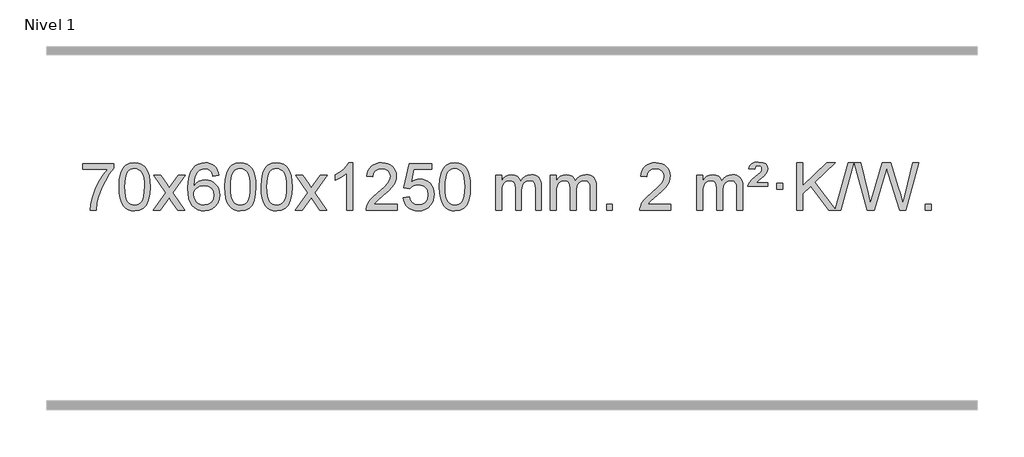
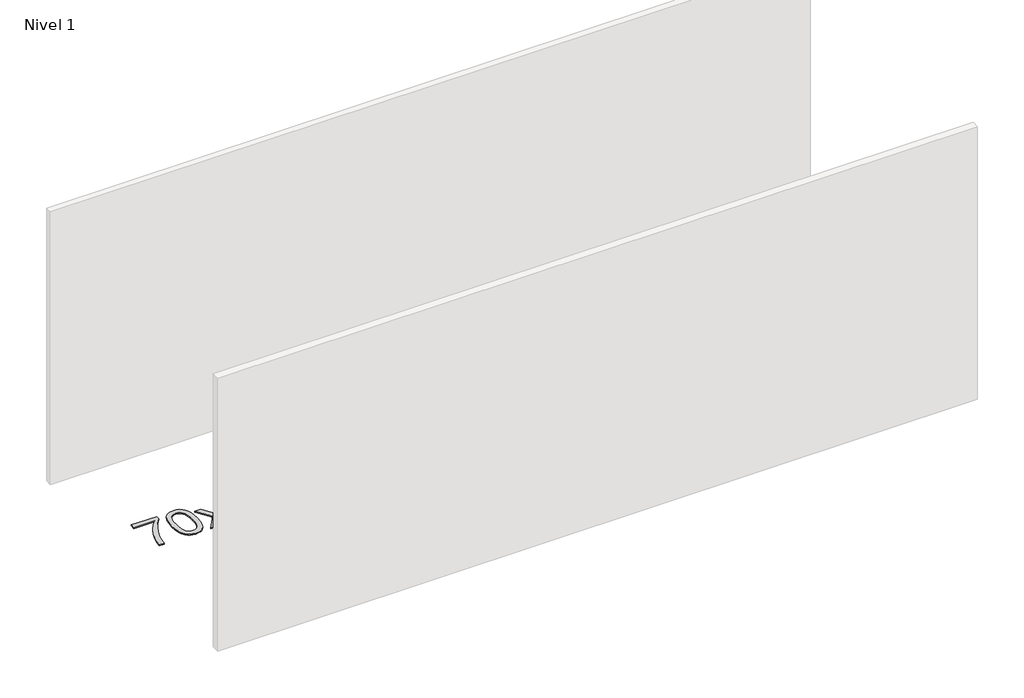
# One storey, part 5 of 8: 1 proxy.
"""IFC4 building model written with IfcOpenShell, lengths in millimetres."""

from ifc_helpers import new_model, si_unit, origin, origin_with_axes, place, context, project, spatial, polyline, outline, extrude, element, save

model = new_model("IFC4")

# Units and contexts
model_context = context("Model", 3, world=origin())
ifc_project = project(units=[si_unit("LENGTHUNIT", "METRE", prefix="MILLI")], contexts=[model_context])

# Site, building, storey
site = spatial("IfcSite", under=ifc_project)
building = spatial("IfcBuilding", under=site)
storey = spatial("IfcBuildingStorey", under=building, Name="Nivel 1", Elevation=0.0)

# Proxy
placement = place(None, origin())
element("IfcBuildingElementProxy", 1, Name="Texto de modelo 1", ObjectType="Texto de modelo 1", at=placement, inside=storey, context=model_context, shape_type="SweptSolid", body=[
    extrude(outline(polyline([(-6223.8644932, -6050.2608869), (-6223.8644932, -6000.0327318), (-5960.1666791, -6000.0327318), (-5960.1666791, -6040.646904), (-5997.7519563, -6088.214046), (-6034.9693515, -6148.7061088), (-6067.7966882, -6216.6048623), (-6092.2117899, -6286.3920768), (-6104.1802175, -6338.6067947), (-6110.8511443, -6395.579453), (-6161.0792994, -6395.579453), (-6155.6469086, -6343.8061935), (-6141.1155698, -6282.2717985), (-6117.8776904, -6217.0463207), (-6086.325678, -6154.1998132), (-6049.4884275, -6097.3865704), (-6010.3948342, -6050.2608869), (-6223.8644932, -6050.2608869)])), origin_with_axes(), (0.0, 0.0, 1.0), 10.0),
    extrude(outline(polyline([(-5916.2170434, -6197.9041943), (-5912.5259607, -6133.5861588), (-5901.4527127, -6082.2911459), (-5883.1076638, -6043.2343407), (-5871.2496009, -6028.0009605), (-5857.6011788, -6015.6309284), (-5842.1164125, -6006.0598651), (-5824.7493167, -5999.2233914), (-5784.3681363, -5993.7542124), (-5753.4169978, -5996.991574), (-5725.7032208, -6006.7036586), (-5702.5266551, -6022.5103217), (-5685.1871504, -6044.0314184), (-5672.0905514, -6071.0830078), (-5661.6427027, -6103.4811488), (-5654.8000976, -6144.6226186), (-5652.5192293, -6197.9041943), (-5656.1735238, -6261.8543477), (-5667.1364072, -6313.0267333), (-5685.3710914, -6352.1203266), (-5697.2015633, -6367.3996922), (-5710.8407882, -6379.8341036), (-5726.3439486, -6389.4695462), (-5743.7662268, -6396.3520052), (-5784.3681363, -6401.8579724), (-5812.0328624, -6399.4667394), (-5836.5583287, -6392.2930405), (-5857.9445354, -6380.3368757), (-5876.1914823, -6363.5982449), (-5893.7026653, -6333.3399508), (-5906.2106531, -6295.6381776), (-5913.7154458, -6250.4929255), (-5916.2170434, -6197.9041943)]), holes=[polyline([(-5865.9888883, -6197.8060924), (-5864.5173604, -6241.4706195), (-5860.1027764, -6276.8148822), (-5852.7451365, -6303.8388804), (-5842.4444406, -6322.5426142), (-5829.9855037, -6335.2682656), (-5816.1531407, -6344.3580165), (-5800.9473516, -6349.8118671), (-5784.3681363, -6351.6298173), (-5767.7889211, -6349.8057357), (-5752.583132, -6344.3334911), (-5738.7507689, -6335.2130833), (-5726.291832, -6322.4445124), (-5715.9911362, -6303.7101217), (-5708.6334963, -6276.6922549), (-5704.2189123, -6241.3909118), (-5702.7473843, -6197.8060924), (-5704.1698614, -6155.2973278), (-5708.4372925, -6120.5753989), (-5715.5496778, -6093.6403055), (-5725.5070171, -6074.4920476), (-5737.7574875, -6061.1440625), (-5751.7492661, -6051.6097875), (-5767.4823528, -6045.8892225), (-5784.9567475, -6043.9823675), (-5801.4501236, -6045.6623619), (-5816.3983954, -6050.7023452), (-5829.8015627, -6059.1023175), (-5841.6596257, -6070.8622786), (-5852.3036781, -6091.708925), (-5859.9065727, -6119.8151094), (-5864.4683094, -6155.1808319), (-5865.9888883, -6197.8060924)])]), origin_with_axes(), (0.0, 0.0, 1.0), 10.0),
    extrude(outline(polyline([(-5627.4051517, -6395.579453), (-5520.081711, -6247.2494325), (-5621.1266323, -6100.4890419), (-5560.6958833, -6100.4890419), (-5511.9392562, -6171.122385), (-5489.1796234, -6204.4770192), (-5469.4611485, -6177.2047007), (-5413.9354927, -6100.4890419), (-5353.5047436, -6100.4890419), (-5459.6509619, -6247.2494325), (-5357.4288182, -6395.579453), (-5417.8595673, -6395.579453), (-5479.3694369, -6306.4048574), (-5490.6511514, -6290.1199477), (-5566.9744027, -6395.579453), (-5627.4051517, -6395.579453)])), origin_with_axes(), (0.0, 0.0, 1.0), 10.0),
    extrude(outline(polyline([(-5068.6169265, -6100.4890419), (-5118.8450816, -6106.7675613), (-5126.9384855, -6081.874213), (-5137.8768435, -6064.8780648), (-5160.6610017, -6049.2062918), (-5188.2031004, -6043.9823675), (-5211.5513444, -6047.0235253), (-5233.5261622, -6056.1469988), (-5252.3985086, -6075.3627017), (-5267.8127642, -6101.8134171), (-5278.2238246, -6139.227016), (-5282.0865856, -6191.3313693), (-5261.938915, -6167.8237098), (-5237.7935934, -6151.2567573), (-5210.9995214, -6141.434308), (-5182.9055997, -6138.1601582), (-5158.7725408, -6140.398107), (-5136.5034174, -6147.1119534), (-5116.0982294, -6158.3016975), (-5097.5569768, -6173.9673391), (-5082.1488526, -6193.1769106), (-5071.1430496, -6214.9984443), (-5064.5395677, -6239.4319401), (-5062.3384071, -6266.4773982), (-5066.4832109, -6302.4439945), (-5078.9176224, -6335.786366), (-5098.6115719, -6364.0642287), (-5124.5349898, -6384.8372987), (-5155.5106538, -6397.602804), (-5190.3613415, -6401.8579724), (-5220.3038702, -6399.0375437), (-5247.3462625, -6390.5762579), (-5271.4885184, -6376.4741147), (-5292.730638, -6356.7311143), (-5310.0486829, -6330.5133908), (-5322.418715, -6296.9870783), (-5329.8407342, -6256.1521768), (-5332.3147407, -6208.0086864), (-5329.5678884, -6154.0342663), (-5321.3273317, -6107.9693092), (-5307.5930706, -6069.8138149), (-5288.365105, -6039.5677835), (-5267.5245899, -6019.5243462), (-5243.3608742, -6005.2076052), (-5215.8739578, -5996.6175606), (-5185.0638407, -5993.7542124), (-5161.9301946, -5995.5261773), (-5140.9915777, -6000.8420722), (-5122.2479901, -6009.7018969), (-5105.6994316, -6022.1056515), (-5091.7934922, -6037.6364031), (-5080.9777616, -6055.8772186), (-5073.2522397, -6076.8280983), (-5068.6169265, -6100.4890419)]), holes=[polyline([(-5282.0865856, -6265.6925832), (-5279.1803178, -6287.9494439), (-5270.4615145, -6309.2007605), (-5256.9234571, -6327.472233), (-5239.5594269, -6340.7895612), (-5218.602416, -6348.9197533), (-5194.2854161, -6351.6298173), (-5161.1392483, -6346.0134855), (-5147.2241118, -6338.9930708), (-5135.0809403, -6329.1644901), (-5125.2308999, -6316.9262824), (-5118.1951567, -6302.6769865), (-5112.5665622, -6268.1451299), (-5118.1215803, -6234.9989621), (-5125.065353, -6221.3781312), (-5134.7866347, -6209.725469), (-5146.9665944, -6200.3904634), (-5161.2864011, -6193.7226022), (-5196.3455552, -6188.3883133), (-5229.4426721, -6193.7226022), (-5257.1196608, -6209.725469), (-5268.0426904, -6221.2248471), (-5275.8448544, -6234.3858254), (-5280.5261528, -6249.2084042), (-5282.0865856, -6265.6925832)])]), origin_with_axes(), (0.0, 0.0, 1.0), 10.0),
    extrude(outline(polyline([(-5018.3887714, -6197.9041943), (-5014.6976888, -6133.5861588), (-5003.6244407, -6082.2911459), (-4985.2793919, -6043.2343407), (-4973.4213289, -6028.0009605), (-4959.7729069, -6015.6309284), (-4944.2881406, -6006.0598651), (-4926.9210447, -5999.2233914), (-4886.5398644, -5993.7542124), (-4855.5887258, -5996.991574), (-4827.8749489, -6006.7036586), (-4804.6983832, -6022.5103217), (-4787.3588785, -6044.0314184), (-4774.2622794, -6071.0830078), (-4763.8144308, -6103.4811488), (-4756.9718257, -6144.6226186), (-4754.6909573, -6197.9041943), (-4758.3452518, -6261.8543477), (-4769.3081352, -6313.0267333), (-4787.5428195, -6352.1203266), (-4799.3732913, -6367.3996922), (-4813.0125163, -6379.8341036), (-4828.5156767, -6389.4695462), (-4845.9379548, -6396.3520052), (-4886.5398644, -6401.8579724), (-4914.2045904, -6399.4667394), (-4938.7300568, -6392.2930405), (-4960.1162634, -6380.3368757), (-4978.3632104, -6363.5982449), (-4995.8743933, -6333.3399508), (-5008.3823812, -6295.6381776), (-5015.8871739, -6250.4929255), (-5018.3887714, -6197.9041943)]), holes=[polyline([(-4968.1606164, -6197.8060924), (-4966.6890884, -6241.4706195), (-4962.2745044, -6276.8148822), (-4954.9168645, -6303.8388804), (-4944.6161687, -6322.5426142), (-4932.1572318, -6335.2682656), (-4918.3248688, -6344.3580165), (-4903.1190796, -6349.8118671), (-4886.5398644, -6351.6298173), (-4869.9606491, -6349.8057357), (-4854.75486, -6344.3334911), (-4840.922497, -6335.2130833), (-4828.4635601, -6322.4445124), (-4818.1628642, -6303.7101217), (-4810.8052243, -6276.6922549), (-4806.3906404, -6241.3909118), (-4804.9191124, -6197.8060924), (-4806.3415894, -6155.2973278), (-4810.6090206, -6120.5753989), (-4817.7214058, -6093.6403055), (-4827.6787451, -6074.4920476), (-4839.9292156, -6061.1440625), (-4853.9209941, -6051.6097875), (-4869.6540808, -6045.8892225), (-4887.1284756, -6043.9823675), (-4903.6218517, -6045.6623619), (-4918.5701234, -6050.7023452), (-4931.9732908, -6059.1023175), (-4943.8313538, -6070.8622786), (-4954.4754062, -6091.708925), (-4962.0783007, -6119.8151094), (-4966.6400375, -6155.1808319), (-4968.1606164, -6197.8060924)])]), origin_with_axes(), (0.0, 0.0, 1.0), 10.0),
    extrude(outline(polyline([(-4710.7413216, -6197.9041943), (-4707.0502389, -6133.5861588), (-4695.9769909, -6082.2911459), (-4677.631942, -6043.2343407), (-4665.7738791, -6028.0009605), (-4652.125457, -6015.6309284), (-4636.6406907, -6006.0598651), (-4619.2735949, -5999.2233914), (-4578.8924145, -5993.7542124), (-4547.941276, -5996.991574), (-4520.227499, -6006.7036586), (-4497.0509333, -6022.5103217), (-4479.7114286, -6044.0314184), (-4466.6148296, -6071.0830078), (-4456.166981, -6103.4811488), (-4449.3243758, -6144.6226186), (-4447.0435075, -6197.9041943), (-4450.697802, -6261.8543477), (-4461.6606854, -6313.0267333), (-4479.8953696, -6352.1203266), (-4491.7258415, -6367.3996922), (-4505.3650664, -6379.8341036), (-4520.8682269, -6389.4695462), (-4538.290505, -6396.3520052), (-4578.8924145, -6401.8579724), (-4606.5571406, -6399.4667394), (-4631.0826069, -6392.2930405), (-4652.4688136, -6380.3368757), (-4670.7157605, -6363.5982449), (-4688.2269435, -6333.3399508), (-4700.7349313, -6295.6381776), (-4708.239724, -6250.4929255), (-4710.7413216, -6197.9041943)]), holes=[polyline([(-4660.5131665, -6197.8060924), (-4659.0416386, -6241.4706195), (-4654.6270546, -6276.8148822), (-4647.2694147, -6303.8388804), (-4636.9687188, -6322.5426142), (-4624.5097819, -6335.2682656), (-4610.6774189, -6344.3580165), (-4595.4716298, -6349.8118671), (-4578.8924145, -6351.6298173), (-4562.3131993, -6349.8057357), (-4547.1074102, -6344.3334911), (-4533.2750471, -6335.2130833), (-4520.8161102, -6322.4445124), (-4510.5154144, -6303.7101217), (-4503.1577745, -6276.6922549), (-4498.7431905, -6241.3909118), (-4497.2716625, -6197.8060924), (-4498.6941396, -6155.2973278), (-4502.9615707, -6120.5753989), (-4510.073956, -6093.6403055), (-4520.0312953, -6074.4920476), (-4532.2817658, -6061.1440625), (-4546.2735443, -6051.6097875), (-4562.006631, -6045.8892225), (-4579.4810257, -6043.9823675), (-4595.9744019, -6045.6623619), (-4610.9226736, -6050.7023452), (-4624.3258409, -6059.1023175), (-4636.1839039, -6070.8622786), (-4646.8279563, -6091.708925), (-4654.4308509, -6119.8151094), (-4658.9925876, -6155.1808319), (-4660.5131665, -6197.8060924)])]), origin_with_axes(), (0.0, 0.0, 1.0), 10.0),
    extrude(outline(polyline([(-4421.9294299, -6395.579453), (-4314.6059892, -6247.2494325), (-4415.6509105, -6100.4890419), (-4355.2201615, -6100.4890419), (-4306.4635344, -6171.122385), (-4283.7039016, -6204.4770192), (-4263.9854267, -6177.2047007), (-4208.4597709, -6100.4890419), (-4148.0290218, -6100.4890419), (-4254.1752401, -6247.2494325), (-4151.9530964, -6395.579453), (-4212.3838455, -6395.579453), (-4273.8937151, -6306.4048574), (-4285.1754296, -6290.1199477), (-4361.4986809, -6395.579453), (-4421.9294299, -6395.579453)])), origin_with_axes(), (0.0, 0.0, 1.0), 10.0),
    extrude(outline(polyline([(-3932.204918, -6395.579453), (-3982.433073, -6395.579453), (-3982.433073, -6082.4382987), (-4003.4023468, -6099.3976587), (-4030.0124777, -6116.3324932), (-4082.8893832, -6141.6918254), (-4082.8893832, -6094.2105225), (-4043.4401706, -6072.7507395), (-4009.2639332, -6047.219729), (-3982.3227084, -6020.0700378), (-3964.5785335, -5993.7542124), (-3932.204918, -5993.7542124), (-3932.204918, -6395.579453)])), origin_with_axes(), (0.0, 0.0, 1.0), 10.0),
    extrude(outline(polyline([(-3555.4937549, -6345.3512979), (-3555.4937549, -6395.579453), (-3819.191569, -6395.579453), (-3818.0879231, -6377.8965918), (-3813.7959664, -6360.9494945), (-3801.4106059, -6333.8856424), (-3783.2862863, -6307.6311307), (-3757.0685628, -6280.1503456), (-3720.4029906, -6249.4076736), (-3666.20171, -6201.2641831), (-3633.6809416, -6165.7267824), (-3617.4205574, -6136.884834), (-3612.0004294, -6108.8277005), (-3617.1139891, -6083.6768347), (-3632.4546683, -6062.7688747), (-3656.0359042, -6048.6789943), (-3685.871134, -6043.9823675), (-3717.2024172, -6048.5686297), (-3741.5439426, -6062.3274163), (-3757.2525038, -6084.1796068), (-3762.6848946, -6113.0460807), (-3812.9130497, -6106.7675613), (-3808.5935019, -6080.838012), (-3800.7361556, -6058.1826125), (-3789.3410108, -6038.8013627), (-3774.4080675, -6022.6942627), (-3756.2806822, -6010.0329907), (-3735.3022114, -6000.989225), (-3711.4726552, -5995.5629655), (-3684.7920135, -5993.7542124), (-3657.8722485, -5995.7653006), (-3633.9139335, -6001.7985654), (-3612.9170687, -6011.8540066), (-3594.8816538, -6025.9316242), (-3580.3963003, -6042.9890861), (-3570.0496192, -6061.9840598), (-3563.8416105, -6082.9165453), (-3561.7722743, -6105.7865427), (-3564.0040917, -6129.8092369), (-3570.699544, -6153.4149983), (-3582.5821325, -6177.4254299), (-3600.3753583, -6202.6621347), (-3628.7390601, -6232.7916701), (-3672.3330766, -6271.4805933), (-3730.1150753, -6319.795762), (-3752.7766062, -6345.3512979), (-3555.4937549, -6345.3512979)])), origin_with_axes(), (0.0, 0.0, 1.0), 10.0),
    extrude(outline(polyline([(-3505.2655998, -6288.8446235), (-3455.0374447, -6282.5661041), (-3445.8158694, -6312.7201649), (-3429.7271635, -6334.3148381), (-3406.8449034, -6347.3010725), (-3377.2426655, -6351.6298173), (-3358.1128017, -6350.1245668), (-3341.2392809, -6345.6088153), (-3326.622103, -6338.0825628), (-3314.2612679, -6327.5458094), (-3304.4326873, -6314.519721), (-3297.4122725, -6299.5254641), (-3291.7959408, -6263.6324441), (-3297.0566533, -6229.8363514), (-3303.6325439, -6215.9181493), (-3312.8387909, -6203.9865099), (-3324.7060509, -6194.4154467), (-3339.2649809, -6187.5789729), (-3376.4578506, -6182.1097939), (-3400.8239014, -6184.2925604), (-3420.5546391, -6190.8408599), (-3436.3122512, -6200.8717757), (-3448.7589254, -6213.5023908), (-3498.9870804, -6207.2238715), (-3455.0374447, -6000.0327318), (-3260.4033438, -6000.0327318), (-3260.4033438, -6050.2608869), (-3414.4232725, -6050.2608869), (-3435.907581, -6160.919791), (-3418.1818002, -6148.2155994), (-3400.0268237, -6139.1411769), (-3381.4426516, -6133.6965234), (-3362.4292838, -6131.8816388), (-3337.9681968, -6134.1318504), (-3315.499804, -6140.882485), (-3295.0241053, -6152.1335427), (-3276.5411007, -6167.8850234), (-3261.2402754, -6187.1743027), (-3250.3111144, -6209.038756), (-3243.7536179, -6233.4783832), (-3241.5677857, -6260.4931844), (-3243.5359543, -6286.5147042), (-3249.4404604, -6310.7213394), (-3259.2813037, -6333.1130902), (-3273.0584845, -6353.6899565), (-3293.9296563, -6374.7634634), (-3318.2834444, -6389.8159684), (-3346.1198487, -6398.8474714), (-3377.4388692, -6401.8579724), (-3403.3592215, -6399.9235262), (-3426.7718448, -6394.1201877), (-3447.6767392, -6384.447957), (-3466.0739046, -6370.9068338), (-3481.3808613, -6354.1712688), (-3493.0151294, -6334.915712), (-3500.9767089, -6313.1401636), (-3505.2655998, -6288.8446235)])), origin_with_axes(), (0.0, 0.0, 1.0), 10.0),
    extrude(outline(polyline([(-3197.61815, -6197.9041943), (-3193.9270673, -6133.5861588), (-3182.8538192, -6082.2911459), (-3164.5087704, -6043.2343407), (-3152.6507074, -6028.0009605), (-3139.0022854, -6015.6309284), (-3123.5175191, -6006.0598651), (-3106.1504233, -5999.2233914), (-3065.7692429, -5993.7542124), (-3034.8181044, -5996.991574), (-3007.1043274, -6006.7036586), (-2983.9277617, -6022.5103217), (-2966.588257, -6044.0314184), (-2953.491658, -6071.0830078), (-2943.0438093, -6103.4811488), (-2936.2012042, -6144.6226186), (-2933.9203358, -6197.9041943), (-2937.5746303, -6261.8543477), (-2948.5375138, -6313.0267333), (-2966.772198, -6352.1203266), (-2978.6026698, -6367.3996922), (-2992.2418948, -6379.8341036), (-3007.7450552, -6389.4695462), (-3025.1673334, -6396.3520052), (-3065.7692429, -6401.8579724), (-3093.433969, -6399.4667394), (-3117.9594353, -6392.2930405), (-3139.3456419, -6380.3368757), (-3157.5925889, -6363.5982449), (-3175.1037719, -6333.3399508), (-3187.6117597, -6295.6381776), (-3195.1165524, -6250.4929255), (-3197.61815, -6197.9041943)]), holes=[polyline([(-3147.3899949, -6197.8060924), (-3145.9184669, -6241.4706195), (-3141.503883, -6276.8148822), (-3134.1462431, -6303.8388804), (-3123.8455472, -6322.5426142), (-3111.3866103, -6335.2682656), (-3097.5542473, -6344.3580165), (-3082.3484582, -6349.8118671), (-3065.7692429, -6351.6298173), (-3049.1900277, -6349.8057357), (-3033.9842385, -6344.3334911), (-3020.1518755, -6335.2130833), (-3007.6929386, -6322.4445124), (-2997.3922427, -6303.7101217), (-2990.0346028, -6276.6922549), (-2985.6200189, -6241.3909118), (-2984.1484909, -6197.8060924), (-2985.570968, -6155.2973278), (-2989.8383991, -6120.5753989), (-2996.9507843, -6093.6403055), (-3006.9081237, -6074.4920476), (-3019.1585941, -6061.1440625), (-3033.1503727, -6051.6097875), (-3048.8834593, -6045.8892225), (-3066.3578541, -6043.9823675), (-3082.8512302, -6045.6623619), (-3097.799502, -6050.7023452), (-3111.2026693, -6059.1023175), (-3123.0607323, -6070.8622786), (-3133.7047847, -6091.708925), (-3141.3076793, -6119.8151094), (-3145.869416, -6155.1808319), (-3147.3899949, -6197.8060924)])]), origin_with_axes(), (0.0, 0.0, 1.0), 10.0),
    extrude(outline(polyline([(-2720.4506768, -6395.579453), (-2720.4506768, -6100.4890419), (-2670.2225217, -6100.4890419), (-2670.2225217, -6149.0494653), (-2655.1148344, -6126.7435537), (-2635.6906651, -6109.2691589), (-2612.6122013, -6097.9751816), (-2586.5416305, -6094.2105225), (-2558.6071244, -6098.048758), (-2536.2153736, -6109.5634645), (-2519.4890055, -6127.9943524), (-2508.5506476, -6152.5811324), (-2490.2423869, -6127.0439906), (-2469.3589523, -6108.803175), (-2445.9003438, -6097.8586857), (-2419.8665612, -6094.2105225), (-2399.7587445, -6095.7280358), (-2382.1096058, -6100.2805755), (-2366.9191451, -6107.8681416), (-2354.1873624, -6118.4907342), (-2344.1227241, -6132.2709806), (-2336.9336968, -6149.3315082), (-2332.6202804, -6169.6723168), (-2331.1824749, -6193.2934066), (-2331.1824749, -6395.579453), (-2381.41063, -6395.579453), (-2381.41063, -6214.875817), (-2382.5755897, -6189.8230531), (-2386.0704686, -6172.9372695), (-2392.6187681, -6161.3735121), (-2402.9439895, -6152.2868268), (-2416.2245295, -6146.4007149), (-2431.6387851, -6144.4386776), (-2458.84979, -6149.4663982), (-2481.0330743, -6164.54956), (-2489.6384473, -6176.1194488), (-2495.7851423, -6190.7182326), (-2500.7024983, -6229.0024856), (-2500.7024983, -6395.579453), (-2550.9306534, -6395.579453), (-2550.9306534, -6209.2840106), (-2553.8369212, -6180.8835206), (-2562.5557244, -6160.6254854), (-2577.8964036, -6148.4853796), (-2600.6682991, -6144.4386776), (-2620.0188921, -6147.1364789), (-2637.8489061, -6155.2298828), (-2652.5641859, -6168.5226856), (-2662.5705762, -6186.8186835), (-2668.3095353, -6212.2025411), (-2670.2225217, -6246.7589232), (-2670.2225217, -6395.579453), (-2720.4506768, -6395.579453)])), origin_with_axes(), (0.0, 0.0, 1.0), 10.0),
    extrude(outline(polyline([(-2255.8402423, -6395.579453), (-2255.8402423, -6100.4890419), (-2205.6120873, -6100.4890419), (-2205.6120873, -6149.0494653), (-2190.5044, -6126.7435537), (-2171.0802306, -6109.2691589), (-2148.0017668, -6097.9751816), (-2121.9311961, -6094.2105225), (-2093.9966899, -6098.048758), (-2071.6049391, -6109.5634645), (-2054.8785711, -6127.9943524), (-2043.9402131, -6152.5811324), (-2025.6319525, -6127.0439906), (-2004.7485179, -6108.803175), (-1981.2899093, -6097.8586857), (-1955.2561268, -6094.2105225), (-1935.1483101, -6095.7280358), (-1917.4991714, -6100.2805755), (-1902.3087107, -6107.8681416), (-1889.5769279, -6118.4907342), (-1879.5122897, -6132.2709806), (-1872.3232624, -6149.3315082), (-1868.009846, -6169.6723168), (-1866.5720405, -6193.2934066), (-1866.5720405, -6395.579453), (-1916.8001956, -6395.579453), (-1916.8001956, -6214.875817), (-1917.9651552, -6189.8230531), (-1921.4600342, -6172.9372695), (-1928.0083337, -6161.3735121), (-1938.333555, -6152.2868268), (-1951.6140951, -6146.4007149), (-1967.0283507, -6144.4386776), (-1994.2393556, -6149.4663982), (-2016.4226399, -6164.54956), (-2025.0280129, -6176.1194488), (-2031.1747079, -6190.7182326), (-2036.0920639, -6229.0024856), (-2036.0920639, -6395.579453), (-2086.320219, -6395.579453), (-2086.320219, -6209.2840106), (-2089.2264867, -6180.8835206), (-2097.94529, -6160.6254854), (-2113.2859692, -6148.4853796), (-2136.0578647, -6144.4386776), (-2155.4084576, -6147.1364789), (-2173.2384717, -6155.2298828), (-2187.9537515, -6168.5226856), (-2197.9601418, -6186.8186835), (-2203.6991009, -6212.2025411), (-2205.6120873, -6246.7589232), (-2205.6120873, -6395.579453), (-2255.8402423, -6395.579453)])), origin_with_axes(), (0.0, 0.0, 1.0), 10.0),
    extrude(outline(polyline([(-1778.6727691, -6395.579453), (-1778.6727691, -6345.3512979), (-1728.444614, -6345.3512979), (-1728.444614, -6395.579453), (-1778.6727691, -6395.579453)])), origin_with_axes(), (0.0, 0.0, 1.0), 10.0),
    extrude(outline(polyline([(-1232.4415827, -6345.3512979), (-1232.4415827, -6395.579453), (-1496.1393968, -6395.579453), (-1495.0357508, -6377.8965918), (-1490.7437942, -6360.9494945), (-1478.3584337, -6333.8856424), (-1460.2341141, -6307.6311307), (-1434.0163906, -6280.1503456), (-1397.3508184, -6249.4076736), (-1343.1495378, -6201.2641831), (-1310.6287694, -6165.7267824), (-1294.3683852, -6136.884834), (-1288.9482571, -6108.8277005), (-1294.0618169, -6083.6768347), (-1309.4024961, -6062.7688747), (-1332.983732, -6048.6789943), (-1362.8189618, -6043.9823675), (-1394.150245, -6048.5686297), (-1418.4917704, -6062.3274163), (-1434.2003316, -6084.1796068), (-1439.6327224, -6113.0460807), (-1489.8608774, -6106.7675613), (-1485.5413297, -6080.838012), (-1477.6839834, -6058.1826125), (-1466.2888386, -6038.8013627), (-1451.3558953, -6022.6942627), (-1433.22851, -6010.0329907), (-1412.2500392, -6000.989225), (-1388.420483, -5995.5629655), (-1361.7398413, -5993.7542124), (-1334.8200763, -5995.7653006), (-1310.8617613, -6001.7985654), (-1289.8648964, -6011.8540066), (-1271.8294816, -6025.9316242), (-1257.3441281, -6042.9890861), (-1246.997447, -6061.9840598), (-1240.7894383, -6082.9165453), (-1238.7201021, -6105.7865427), (-1240.9519195, -6129.8092369), (-1247.6473718, -6153.4149983), (-1259.5299603, -6177.4254299), (-1277.3231861, -6202.6621347), (-1305.6868879, -6232.7916701), (-1349.2809044, -6271.4805933), (-1407.0629031, -6319.795762), (-1429.724434, -6345.3512979), (-1232.4415827, -6345.3512979)])), origin_with_axes(), (0.0, 0.0, 1.0), 10.0),
    extrude(outline(polyline([(-1012.6934042, -6395.579453), (-1012.6934042, -6100.4890419), (-962.4652492, -6100.4890419), (-962.4652492, -6149.0494653), (-947.3575619, -6126.7435537), (-927.9333925, -6109.2691589), (-904.8549287, -6097.9751816), (-878.784358, -6094.2105225), (-850.8498518, -6098.048758), (-828.458101, -6109.5634645), (-811.731733, -6127.9943524), (-800.793375, -6152.5811324), (-782.4851144, -6127.0439906), (-761.6016798, -6108.803175), (-738.1430712, -6097.8586857), (-712.1092887, -6094.2105225), (-692.001472, -6095.7280358), (-674.3523333, -6100.2805755), (-659.1618725, -6107.8681416), (-646.4300898, -6118.4907342), (-636.3654516, -6132.2709806), (-629.1764243, -6149.3315082), (-624.8630079, -6169.6723168), (-623.4252024, -6193.2934066), (-623.4252024, -6395.579453), (-673.6533575, -6395.579453), (-673.6533575, -6214.875817), (-674.8183171, -6189.8230531), (-678.3131961, -6172.9372695), (-684.8614956, -6161.3735121), (-695.1867169, -6152.2868268), (-708.467257, -6146.4007149), (-723.8815126, -6144.4386776), (-751.0925175, -6149.4663982), (-773.2758018, -6164.54956), (-781.8811748, -6176.1194488), (-788.0278698, -6190.7182326), (-792.9452258, -6229.0024856), (-792.9452258, -6395.579453), (-843.1733809, -6395.579453), (-843.1733809, -6209.2840106), (-846.0796486, -6180.8835206), (-854.7984519, -6160.6254854), (-870.1391311, -6148.4853796), (-892.9110266, -6144.4386776), (-912.2616195, -6147.1364789), (-930.0916336, -6155.2298828), (-944.8069134, -6168.5226856), (-954.8133037, -6186.8186835), (-960.5522628, -6212.2025411), (-962.4652492, -6246.7589232), (-962.4652492, -6395.579453), (-1012.6934042, -6395.579453)])), origin_with_axes(), (0.0, 0.0, 1.0), 10.0),
    extrude(outline(polyline([(-579.4755667, -6194.6668327), (-575.649594, -6178.8479069), (-567.3109354, -6162.9799302), (-545.8021014, -6137.8413272), (-513.8454188, -6110.1030247), (-469.6995793, -6072.726214), (-462.5626686, -6061.1992448), (-460.1836984, -6049.3779701), (-462.0721593, -6037.2869152), (-467.737542, -6027.5012541), (-477.1062702, -6021.026531), (-490.1047673, -6018.8682899), (-502.5391788, -6020.4869707), (-511.3928721, -6025.343013), (-517.8185443, -6034.8098431), (-522.9688923, -6050.2608869), (-573.1970473, -6043.9823675), (-562.3567912, -6018.7701881), (-545.728525, -6001.2099542), (-521.9633481, -5990.9092583), (-489.7123599, -5987.475693), (-453.9297045, -5991.6082341), (-429.1835089, -6004.0058573), (-414.7625347, -6022.3386434), (-409.9555433, -6044.2766731), (-414.0512962, -6067.1834586), (-426.3385549, -6088.8149199), (-446.8663702, -6108.6314968), (-483.3357386, -6136.6886303), (-508.9403255, -6163.2742358), (-409.9555433, -6163.2742358), (-409.9555433, -6194.6668327), (-579.4755667, -6194.6668327)])), origin_with_axes(), (0.0, 0.0, 1.0), 10.0),
    extrude(outline(polyline([(-334.6133107, -6219.7809102), (-334.6133107, -6169.5527552), (-284.3851556, -6169.5527552), (-284.3851556, -6219.7809102), (-334.6133107, -6219.7809102)])), origin_with_axes(), (0.0, 0.0, 1.0), 10.0),
    extrude(outline(polyline([(106.2564723, -6395.579453), (-47.1748452, -6192.9009991), (-114.8651323, -6257.4520265), (-114.8651323, -6395.579453), (-165.0932873, -6395.579453), (-165.0932873, -5993.7542124), (-114.8651323, -5993.7542124), (-114.8651323, -6190.4484525), (91.148785, -5993.7542124), (161.3897206, -5993.7542124), (-11.563868, -6158.9577537), (163.0897418, -6389.5349332), (274.4030696, -5993.7542124), (319.7261314, -5993.7542124), (206.7127824, -6395.579453), (167.66824, -6395.579453), (161.3897206, -6395.579453), (106.2564723, -6395.579453)])), origin_with_axes(), (0.0, 0.0, 1.0), 10.0),
    extrude(outline(polyline([(434.2110083, -6395.579453), (324.6312246, -5993.7542124), (376.4290096, -5993.7542124), (439.9990183, -6257.844434), (459.6193914, -6339.3670841), (480.6131906, -6267.2622131), (560.2719053, -5993.7542124), (634.9274248, -5993.7542124), (692.8075254, -6192.0180823), (717.6027719, -6265.5944814), (735.8742443, -6339.3670841), (754.9060062, -6260.1988788), (819.0646262, -5993.7542124), (870.8624111, -5993.7542124), (761.1845256, -6395.579453), (707.5228052, -6395.579453), (611.1867734, -6085.5775584), (597.7468179, -6042.3146358), (582.6391306, -6094.4067263), (494.8379611, -6395.579453), (434.2110083, -6395.579453)])), origin_with_axes(), (0.0, 0.0, 1.0), 10.0),
    extrude(outline(polyline([(927.3690855, -6395.579453), (927.3690855, -6345.3512979), (977.5972406, -6345.3512979), (977.5972406, -6395.579453), (927.3690855, -6395.579453)])), origin_with_axes(), (0.0, 0.0, 1.0), 10.0),
])

save(model, "model.ifc")
